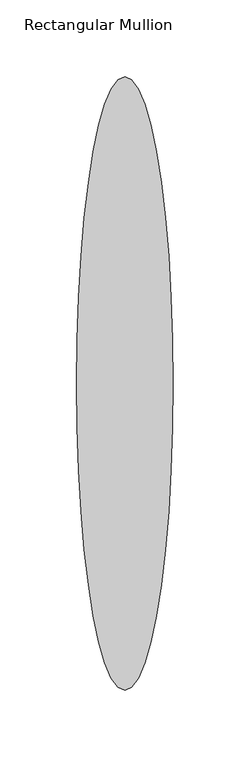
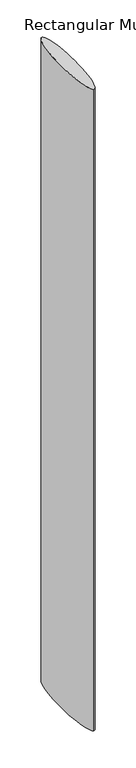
"""IFC4 building model written with IfcOpenShell, lengths in millimetres: member geometry, Rectangular Mullion : RSen_21_CWM_blade - 400 ellips - 0°_gen_duco projects."""

from ifc_helpers import new_model, si_unit, point, frame, origin, place, context, project, spatial, ellipse_curve, trimmed, source, transform, mapped, element, save
from ifc_brep_helpers import plane_surface, extruded_surface, advanced_brep


def rectangular_mullion_a010c3f5(model_context):
    return source(origin(), model_context, "Body", "AdvancedBrep", [
        advanced_brep(
        [(0.0, 53.0, 0.0), (0.0, 453.0, 0.0), (0.0, 53.0, -3000.0), (0.0, 453.0, -3000.0)],
        [
            (0, 1, ellipse_curve(frame((0.0, 253.0, 0.0), z_axis=(0.0, 0.0, 1.0), x_axis=(0.0, 1.0, 0.0)), 200.0, 31.5)),
            (1, 0, ellipse_curve(frame((0.0, 253.0, 0.0), z_axis=(0.0, 0.0, 1.0), x_axis=(0.0, 1.0, 0.0)), 200.0, 31.5)),
            (2, 3, ellipse_curve(frame((0.0, 253.0, -3000.0), z_axis=(0.0, 0.0, -1.0), x_axis=(0.0, 1.0, 0.0)), 200.0, 31.5)),
            (3, 2, ellipse_curve(frame((0.0, 253.0, -3000.0), z_axis=(0.0, 0.0, -1.0), x_axis=(0.0, 1.0, 0.0)), 200.0, 31.5)),
            (0, 2),
            (3, 1),
        ],
        [
            plane_surface(frame((0.0, -453.0, 0.0), z_axis=(0.0, 0.0, 1.0), x_axis=(-1.0, 0.0, 0.0))),
            plane_surface(frame((0.0, -453.0, -3000.0), z_axis=(0.0, 0.0, -1.0), x_axis=(-1.0, 0.0, 0.0))),
            extruded_surface(trimmed(ellipse_curve(frame((0.0, 253.0, -3000.0), z_axis=(0.0, 0.0, 1.0), x_axis=(0.0, 1.0, 0.0)), 200.0, 31.5), [point((0.0, 53.0, -3000.0))], [point((0.0, 453.0, -3000.0))], True, "CARTESIAN"), (0.0, 0.0, 3000.0), 3000.0),
            extruded_surface(trimmed(ellipse_curve(frame((0.0, 253.0, -3000.0), z_axis=(0.0, 0.0, 1.0), x_axis=(0.0, 1.0, 0.0)), 200.0, 31.5), [point((0.0, 453.0, -3000.0))], [point((0.0, 53.0, -3000.0))], True, "CARTESIAN"), (0.0, 0.0, 3000.0), 3000.0),
        ],
        [
            (0, [[1, 2]]),
            (1, [[3, 4]]),
            (2, [[-1, 5, -4, 6]]),
            (3, [[-2, -6, -3, -5]]),
        ],
    ),
    ])


if __name__ == "__main__":
    model = new_model("IFC4")
    model_context = context("Model", 3, world=origin())
    ifc_project = project(units=[si_unit("LENGTHUNIT", "METRE", prefix="MILLI")], contexts=[model_context])
    site = spatial("IfcSite", under=ifc_project)
    building = spatial("IfcBuilding", under=site)
    placement = place(None, origin())
    rectangular_mullion_shape = rectangular_mullion_a010c3f5(model_context)
    element("IfcMember", 1, ObjectType="Rectangular Mullion : RSen_21_CWM_blade - 400 ellips - 0°_gen_duco projects", at=placement, inside=building, context=model_context, shape_type="MappedRepresentation", body=[
        mapped(rectangular_mullion_shape, transform((0.0, 0.0, 0.0), x_axis=(1.0, 0.0, 0.0), y_axis=(0.0, 1.0, 0.0), z_axis=(0.0, 0.0, 1.0))),
    ])
    save(model, "model.ifc")
